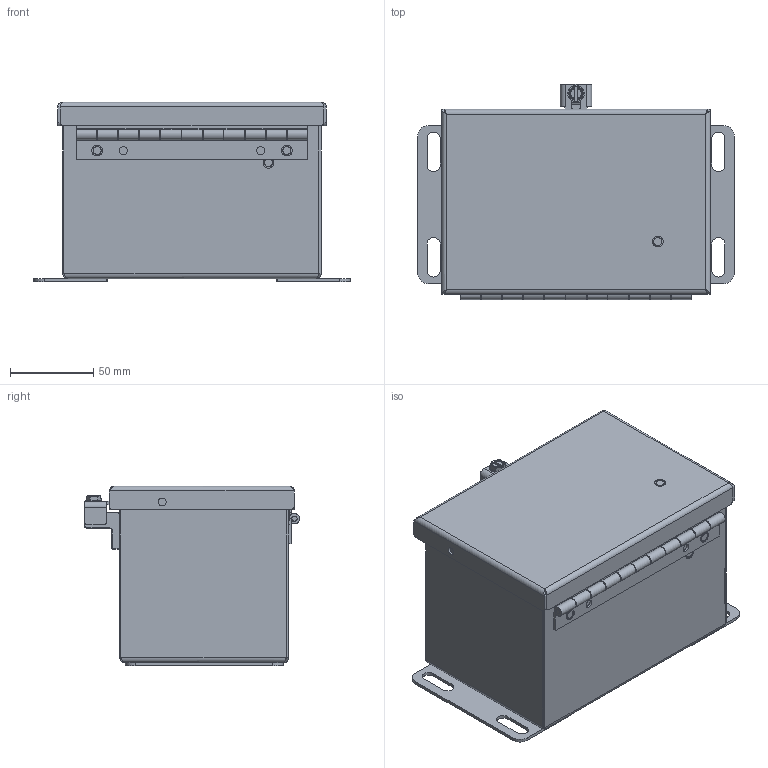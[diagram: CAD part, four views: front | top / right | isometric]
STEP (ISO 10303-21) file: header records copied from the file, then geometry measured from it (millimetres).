
FILE_DESCRIPTION((''),'2;1');
FILE_NAME('MODEL-330_ASM','2021-06-04T12:54:17',('JoshI'),('SAGINAW CONTROL & ENGINEERING'),'CREO PARAMETRIC BY PTC INC, 2017260','CREO PARAMETRIC BY PTC INC, 2017260','');
FILE_SCHEMA(('AUTOMOTIVE_DESIGN { 1 0 10303 214 1 1 1 1 }'));
Length unit declared in the file: inch
Products named in the file (22): MODEL-330-BDY; MODEL-330-DR; 100063; 100009; 125826-BASE; 125826-PEM-STUD; 125826-CLAMP; 125826-BOLT; 125826_ASM; 100897; 102146; 122255; MODEL-330-HNG-PN; MODEL-330-HNG-BX; MODEL-330-HNG-DR; 100062; MODEL-330-HNG_ASM; MODEL-330-GSKT; CH-ELJ_SUBPANEL; 102479; CH-ELJ_SUBPANEL-SUBASSEMBLY_ASM; MODEL-330_ASM
Assembly tree (32 placements, depth 3):
  MODEL-330_ASM
    MODEL-330-BDY
    MODEL-330-DR
    100063  x2
    100009  x4
    125826_ASM
      125826-BASE
      125826-PEM-STUD
      125826-CLAMP
      125826-BOLT
    100897  x3
    102146  x2
    122255
    MODEL-330-HNG_ASM
      MODEL-330-HNG-PN
      MODEL-330-HNG-BX
      MODEL-330-HNG-DR
      100062  x2
    MODEL-330-GSKT
    CH-ELJ_SUBPANEL-SUBASSEMBLY_ASM
      CH-ELJ_SUBPANEL
      102479  x4
Bounding box: 190.5 x 129.65 x 108.33 mm (x, y, z)
Volume: 211685.1 mm3; surface area: 262179.7 mm2
Topology: 28 solids, 28 shells, 1263 faces, 3105 edges, 1842 vertices
Faces by surface type: plane 554, cylinder 404, bspline 161, torus 70, cone 38, sphere 36
Entity records: 52403 total; most frequent: CARTESIAN_POINT 18424, ORIENTED_EDGE 4590, DIRECTION 4445, PRESENTATION_STYLE_ASSIGNMENT 2312, STYLED_ITEM 2312, CURVE_STYLE 2295, EDGE_CURVE 2295, AXIS2_PLACEMENT_3D 1559
